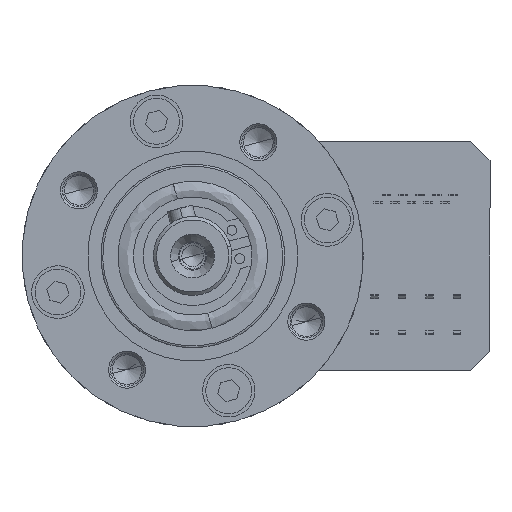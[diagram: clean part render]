
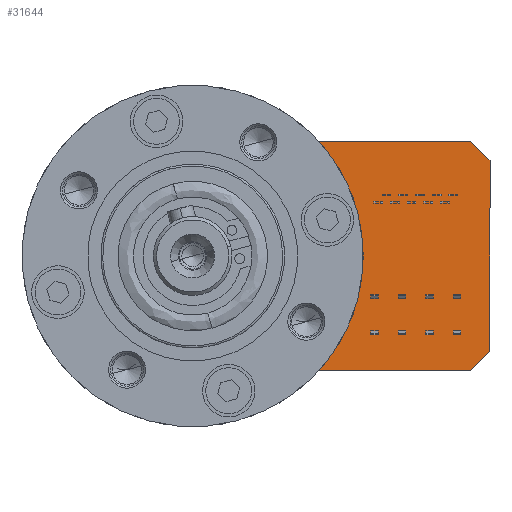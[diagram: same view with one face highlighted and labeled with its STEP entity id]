
A CAD part, left-side view. The second image highlights one B-rep face of the part: STEP entity #31644.
In plain terms, the highlighted planar face has unit normal (-1, 0, 0).
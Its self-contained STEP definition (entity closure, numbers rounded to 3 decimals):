
#1711 = EDGE_CURVE ( 'NONE', #20091, #5360, #19156, .T. ) ;
#1734 = ORIENTED_EDGE ( 'NONE', *, *, #1711, .F. ) ;
#1884 = EDGE_LOOP ( 'NONE', ( #1734, #31200, #29835, #32416, #27691, #13438 ) ) ;
#2824 = EDGE_CURVE ( 'NONE', #5360, #24201, #13529, .T. ) ;
#4848 = DIRECTION ( 'NONE',  ( 0., 0., -1. ) ) ;
#5360 = VERTEX_POINT ( 'NONE', #25348 ) ;
#5884 = CARTESIAN_POINT ( 'NONE',  ( 4., -42.3, -17.5 ) ) ;
#6309 = VECTOR ( 'NONE', #34118, 1000. ) ;
#6787 = CARTESIAN_POINT ( 'NONE',  ( 4., -42.3, 17.5 ) ) ;
#7165 = DIRECTION ( 'NONE',  ( -1., 0., 0. ) ) ;
#8235 = DIRECTION ( 'NONE',  ( 0., -1., 0. ) ) ;
#10206 = CARTESIAN_POINT ( 'NONE',  ( 4., -13.332, -17.5 ) ) ;
#10854 = DIRECTION ( 'NONE',  ( 0., 1., 0. ) ) ;
#11348 = VERTEX_POINT ( 'NONE', #5884 ) ;
#12685 = VECTOR ( 'NONE', #8235, 1000. ) ;
#13438 = ORIENTED_EDGE ( 'NONE', *, *, #2824, .F. ) ;
#13529 = LINE ( 'NONE', #6787, #6309 ) ;
#14278 = CARTESIAN_POINT ( 'NONE',  ( 4., -45.3, 14.5 ) ) ;
#14680 = EDGE_CURVE ( 'NONE', #11348, #31842, #29796, .T. ) ;
#15214 = VECTOR ( 'NONE', #10854, 1000. ) ;
#16713 = CARTESIAN_POINT ( 'NONE',  ( 4., -42.3, -17.5 ) ) ;
#17197 = VECTOR ( 'NONE', #30678, 1000. ) ;
#17724 = LINE ( 'NONE', #16713, #18612 ) ;
#18309 = PLANE ( 'NONE',  #29915 ) ;
#18435 = CARTESIAN_POINT ( 'NONE',  ( 4., 0., 0. ) ) ;
#18612 = VECTOR ( 'NONE', #33054, 1000. ) ;
#18853 = CARTESIAN_POINT ( 'NONE',  ( 4., -11.426, -17.5 ) ) ;
#19156 = LINE ( 'NONE', #24605, #12685 ) ;
#20091 = VERTEX_POINT ( 'NONE', #33523 ) ;
#20279 = CARTESIAN_POINT ( 'NONE',  ( 4., -45.3, 14.5 ) ) ;
#21180 = DIRECTION ( 'NONE',  ( 1., 0., 0. ) ) ;
#22053 = EDGE_CURVE ( 'NONE', #31842, #20091, #31017, .T. ) ;
#23517 = CARTESIAN_POINT ( 'NONE',  ( 4., 0., 0. ) ) ;
#24083 = EDGE_CURVE ( 'NONE', #24201, #28418, #24486, .T. ) ;
#24201 = VERTEX_POINT ( 'NONE', #20279 ) ;
#24486 = LINE ( 'NONE', #14278, #17197 ) ;
#24605 = CARTESIAN_POINT ( 'NONE',  ( 4., -11.426, 17.5 ) ) ;
#25348 = CARTESIAN_POINT ( 'NONE',  ( 4., -42.3, 17.5 ) ) ;
#26273 = DIRECTION ( 'NONE',  ( 0., 0., 1. ) ) ;
#27691 = ORIENTED_EDGE ( 'NONE', *, *, #24083, .F. ) ;
#28418 = VERTEX_POINT ( 'NONE', #31651 ) ;
#29260 = AXIS2_PLACEMENT_3D ( 'NONE', #23517, #7165, #26273 ) ;
#29796 = LINE ( 'NONE', #18853, #15214 ) ;
#29835 = ORIENTED_EDGE ( 'NONE', *, *, #14680, .F. ) ;
#29915 = AXIS2_PLACEMENT_3D ( 'NONE', #18435, #21180, #4848 ) ;
#30678 = DIRECTION ( 'NONE',  ( 0., 0., -1. ) ) ;
#31017 = CIRCLE ( 'NONE', #29260, 22. ) ;
#31200 = ORIENTED_EDGE ( 'NONE', *, *, #22053, .F. ) ;
#31644 = ADVANCED_FACE ( 'NONE', ( #33542 ), #18309, .F. ) ;
#31651 = CARTESIAN_POINT ( 'NONE',  ( 4., -45.3, -14.5 ) ) ;
#31842 = VERTEX_POINT ( 'NONE', #10206 ) ;
#32416 = ORIENTED_EDGE ( 'NONE', *, *, #33221, .F. ) ;
#33054 = DIRECTION ( 'NONE',  ( 0., 0.707, -0.707 ) ) ;
#33221 = EDGE_CURVE ( 'NONE', #28418, #11348, #17724, .T. ) ;
#33523 = CARTESIAN_POINT ( 'NONE',  ( 4., -13.332, 17.5 ) ) ;
#33542 = FACE_OUTER_BOUND ( 'NONE', #1884, .T. ) ;
#34118 = DIRECTION ( 'NONE',  ( 0., -0.707, -0.707 ) ) ;
